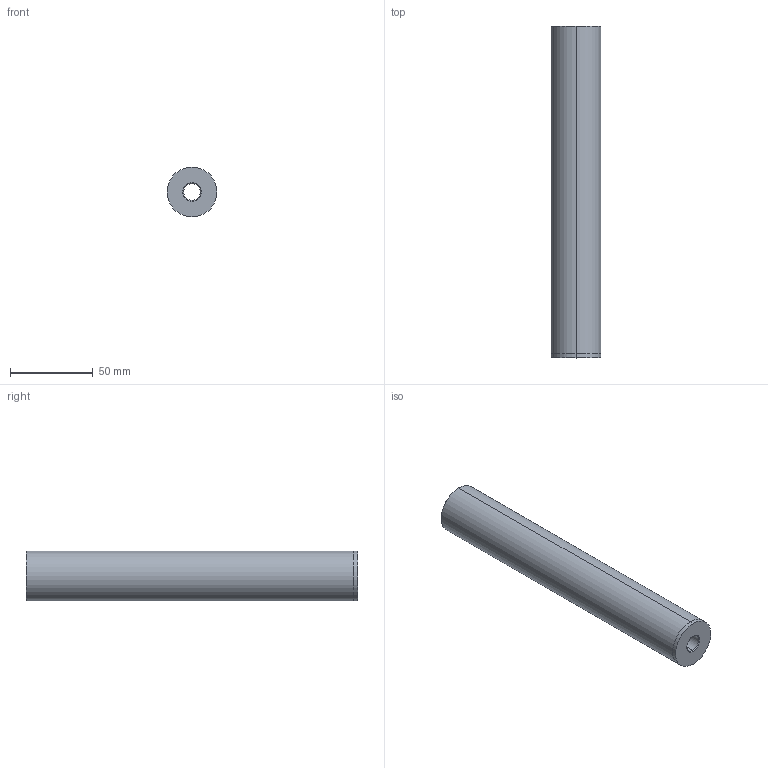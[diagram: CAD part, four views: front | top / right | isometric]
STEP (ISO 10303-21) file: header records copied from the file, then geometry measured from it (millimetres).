
FILE_DESCRIPTION (( 'STEP AP214' ), '1' );
FILE_NAME ('R05_30x200.STEP', '2020-03-20T00:02:27', ( '' ), ( '' ), 'SwSTEP 2.0', 'SolidWorks 2014', '' );
FILE_SCHEMA (( 'AUTOMOTIVE_DESIGN' ));
Length unit declared in the file: millimetre
Products named in the file (1): R05_30x200
Bounding box: 30.02 x 200 x 30.02 mm (x, y, z)
Volume: 47759.2 mm3; surface area: 35102.5 mm2
Topology: 1 solids, 1 shells, 19 faces, 38 edges, 22 vertices
Faces by surface type: cone 8, cylinder 8, plane 3
Entity records: 554 total; most frequent: DIRECTION 100, CARTESIAN_POINT 80, ORIENTED_EDGE 76, AXIS2_PLACEMENT_3D 42, EDGE_CURVE 38, VERTEX_POINT 22, EDGE_LOOP 22, CIRCLE 22
